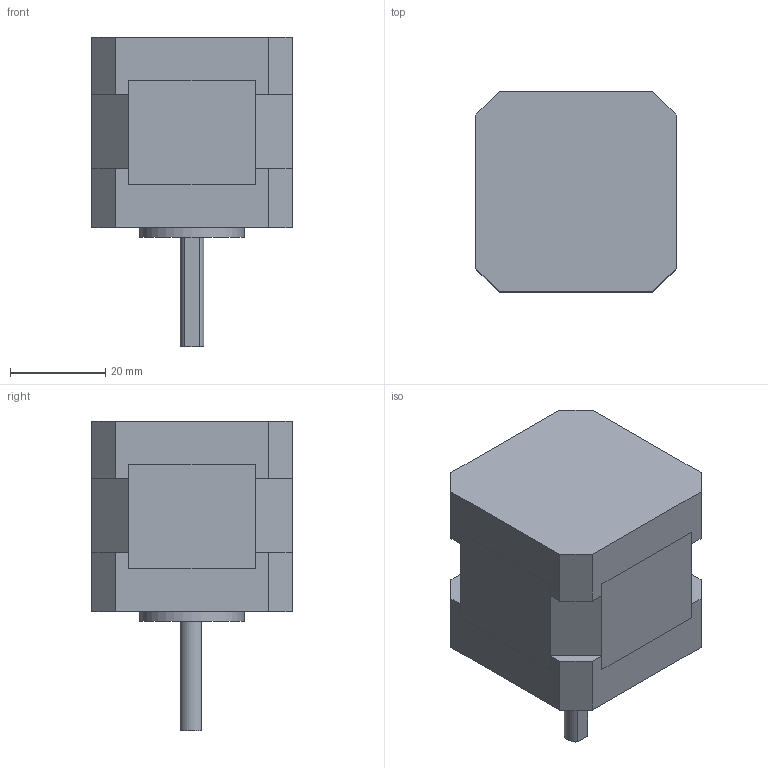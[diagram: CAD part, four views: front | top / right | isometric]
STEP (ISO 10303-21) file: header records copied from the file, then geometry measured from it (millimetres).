
FILE_DESCRIPTION(/* description */ (''),/* implementation_level */ '2;1');
FILE_NAME(/* name */ 'NEMA 17 Stepper.step',/* time_stamp */ '2025-04-22T12:58:11+05:30',/* author */ (''),/* organization */ (''),/* preprocessor_version */ 'ST-DEVELOPER v20.1',/* originating_system */ 'Autodesk Translation Framework v14.4.0.0',/* authorisation */ '');
FILE_SCHEMA (('AUTOMOTIVE_DESIGN { 1 0 10303 214 3 1 1 }'));
Length unit declared in the file: millimetre
Products named in the file (3): NEMA 17 Stepper; Motor; Shaft
Assembly tree (2 placements, depth 2):
  NEMA 17 Stepper
    Motor
    Shaft
Bounding box: 42 x 42 x 65 mm (x, y, z)
Volume: 67764.9 mm3; surface area: 18341.9 mm2
Topology: 4 solids, 4 shells, 66 faces, 156 edges, 104 vertices
Faces by surface type: plane 55, cylinder 11
Full cylindrical faces by diameter (mm): 2.529 x8, 22 x1, 33 x1
Entity records: 2003 total; most frequent: CARTESIAN_POINT 331, DIRECTION 320, ORIENTED_EDGE 312, EDGE_CURVE 156, LINE 134, VECTOR 134, VERTEX_POINT 104, AXIS2_PLACEMENT_3D 93
